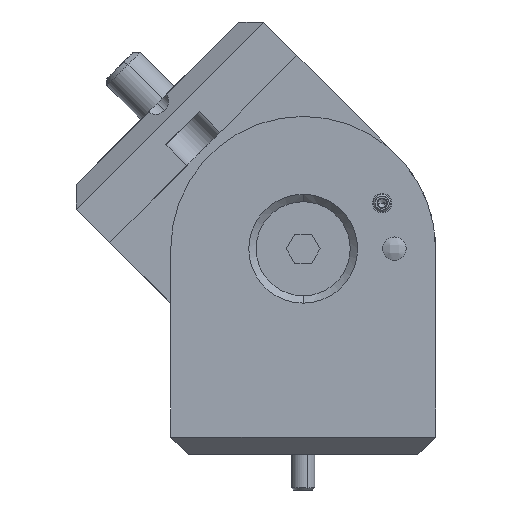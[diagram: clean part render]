
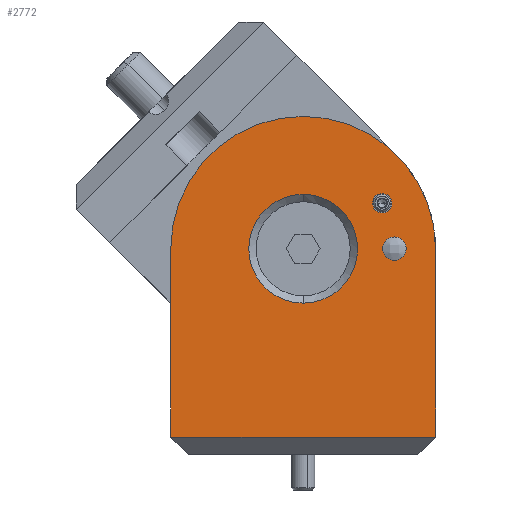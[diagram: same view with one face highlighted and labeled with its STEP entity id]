
A CAD part, left-side view. The second image highlights one B-rep face of the part: STEP entity #2772.
In plain terms, the highlighted planar face has unit normal (-1, 0, 0).
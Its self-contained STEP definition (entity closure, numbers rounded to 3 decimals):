
#46 = EDGE_CURVE ( 'NONE', #540, #769, #2742, .T. ) ;
#47 = VERTEX_POINT ( 'NONE', #4120 ) ;
#88 = DIRECTION ( 'NONE',  ( -1., 0., 0. ) ) ;
#90 = ORIENTED_EDGE ( 'NONE', *, *, #2481, .T. ) ;
#98 = VERTEX_POINT ( 'NONE', #458 ) ;
#119 = AXIS2_PLACEMENT_3D ( 'NONE', #4196, #2003, #4567 ) ;
#158 = DIRECTION ( 'NONE',  ( 1., 0., 0. ) ) ;
#161 = ORIENTED_EDGE ( 'NONE', *, *, #2146, .F. ) ;
#295 = CARTESIAN_POINT ( 'NONE',  ( -22.5, -13.423, 42.75 ) ) ;
#327 = CIRCLE ( 'NONE', #2561, 22.5 ) ;
#352 = AXIS2_PLACEMENT_3D ( 'NONE', #3846, #1632, #4213 ) ;
#405 = CARTESIAN_POINT ( 'NONE',  ( -22.5, -15.5, 35. ) ) ;
#458 = CARTESIAN_POINT ( 'NONE',  ( -22.5, 22.5, 3. ) ) ;
#504 = VECTOR ( 'NONE', #3307, 1000. ) ;
#540 = VERTEX_POINT ( 'NONE', #1546 ) ;
#655 = DIRECTION ( 'NONE',  ( 0., 0., 1. ) ) ;
#746 = CARTESIAN_POINT ( 'NONE',  ( -22.5, 22.5, 11. ) ) ;
#767 = DIRECTION ( 'NONE',  ( 0., 0., 1. ) ) ;
#769 = VERTEX_POINT ( 'NONE', #4026 ) ;
#835 = FACE_BOUND ( 'NONE', #2955, .T. ) ;
#855 = ORIENTED_EDGE ( 'NONE', *, *, #4232, .F. ) ;
#918 = AXIS2_PLACEMENT_3D ( 'NONE', #405, #2966, #767 ) ;
#1110 = ORIENTED_EDGE ( 'NONE', *, *, #1195, .F. ) ;
#1187 = DIRECTION ( 'NONE',  ( 0., 0., -1. ) ) ;
#1195 = EDGE_CURVE ( 'NONE', #47, #3484, #3722, .T. ) ;
#1221 = EDGE_CURVE ( 'NONE', #769, #540, #3593, .T. ) ;
#1291 = EDGE_CURVE ( 'NONE', #2305, #4248, #327, .T. ) ;
#1338 = DIRECTION ( 'NONE',  ( 0., 0., -1. ) ) ;
#1426 = ORIENTED_EDGE ( 'NONE', *, *, #1291, .T. ) ;
#1531 = EDGE_CURVE ( 'NONE', #2550, #2662, #3823, .T. ) ;
#1546 = CARTESIAN_POINT ( 'NONE',  ( -22.5, 0., 44.25 ) ) ;
#1632 = DIRECTION ( 'NONE',  ( 1., 0., 0. ) ) ;
#1636 = CARTESIAN_POINT ( 'NONE',  ( -22.5, -22.5, 35. ) ) ;
#1883 = LINE ( 'NONE', #3572, #2736 ) ;
#1984 = ORIENTED_EDGE ( 'NONE', *, *, #1531, .F. ) ;
#2003 = DIRECTION ( 'NONE',  ( -1., 0., 0. ) ) ;
#2025 = CARTESIAN_POINT ( 'NONE',  ( -22.5, -13.423, 41.1 ) ) ;
#2058 = DIRECTION ( 'NONE',  ( -1., 0., 0. ) ) ;
#2079 = ORIENTED_EDGE ( 'NONE', *, *, #1221, .T. ) ;
#2146 = EDGE_CURVE ( 'NONE', #2305, #4329, #3326, .T. ) ;
#2161 = AXIS2_PLACEMENT_3D ( 'NONE', #3904, #3549, #1338 ) ;
#2181 = AXIS2_PLACEMENT_3D ( 'NONE', #3430, #158, #2558 ) ;
#2261 = CARTESIAN_POINT ( 'NONE',  ( -22.5, -13.423, 42.75 ) ) ;
#2305 = VERTEX_POINT ( 'NONE', #1636 ) ;
#2442 = LINE ( 'NONE', #746, #504 ) ;
#2457 = EDGE_LOOP ( 'NONE', ( #2614, #90, #161, #1426 ) ) ;
#2481 = EDGE_CURVE ( 'NONE', #98, #4329, #1883, .T. ) ;
#2529 = CARTESIAN_POINT ( 'NONE',  ( -22.5, -13.423, 44.4 ) ) ;
#2550 = VERTEX_POINT ( 'NONE', #2529 ) ;
#2558 = DIRECTION ( 'NONE',  ( 0., 0., -1. ) ) ;
#2561 = AXIS2_PLACEMENT_3D ( 'NONE', #4260, #2058, #4625 ) ;
#2614 = ORIENTED_EDGE ( 'NONE', *, *, #3556, .T. ) ;
#2648 = DIRECTION ( 'NONE',  ( 0., 0., 1. ) ) ;
#2662 = VERTEX_POINT ( 'NONE', #2025 ) ;
#2736 = VECTOR ( 'NONE', #3218, 1000. ) ;
#2742 = CIRCLE ( 'NONE', #2181, 9.25 ) ;
#2772 = ADVANCED_FACE ( 'NONE', ( #4609, #835, #3651, #3774 ), #4638, .F. ) ;
#2864 = DIRECTION ( 'NONE',  ( -1., 0., 0. ) ) ;
#2955 = EDGE_LOOP ( 'NONE', ( #3334, #2079 ) ) ;
#2966 = DIRECTION ( 'NONE',  ( -1., 0., 0. ) ) ;
#3037 = CARTESIAN_POINT ( 'NONE',  ( -22.5, -22.5, 3. ) ) ;
#3209 = ORIENTED_EDGE ( 'NONE', *, *, #4197, .F. ) ;
#3218 = DIRECTION ( 'NONE',  ( 0., -1., 0. ) ) ;
#3284 = EDGE_LOOP ( 'NONE', ( #1110, #3209 ) ) ;
#3307 = DIRECTION ( 'NONE',  ( 0., 0., -1. ) ) ;
#3326 = LINE ( 'NONE', #3772, #4289 ) ;
#3334 = ORIENTED_EDGE ( 'NONE', *, *, #46, .T. ) ;
#3430 = CARTESIAN_POINT ( 'NONE',  ( -22.5, 0., 35. ) ) ;
#3484 = VERTEX_POINT ( 'NONE', #4324 ) ;
#3549 = DIRECTION ( 'NONE',  ( 1., 0., 0. ) ) ;
#3556 = EDGE_CURVE ( 'NONE', #4248, #98, #2442, .T. ) ;
#3572 = CARTESIAN_POINT ( 'NONE',  ( -22.5, -22.5, 3. ) ) ;
#3593 = CIRCLE ( 'NONE', #352, 9.25 ) ;
#3624 = AXIS2_PLACEMENT_3D ( 'NONE', #2261, #88, #2648 ) ;
#3651 = FACE_BOUND ( 'NONE', #3284, .T. ) ;
#3722 = CIRCLE ( 'NONE', #119, 2. ) ;
#3772 = CARTESIAN_POINT ( 'NONE',  ( -22.5, -22.5, 11. ) ) ;
#3774 = FACE_BOUND ( 'NONE', #4256, .T. ) ;
#3823 = CIRCLE ( 'NONE', #3943, 1.65 ) ;
#3846 = CARTESIAN_POINT ( 'NONE',  ( -22.5, 0., 35. ) ) ;
#3904 = CARTESIAN_POINT ( 'NONE',  ( -22.5, -22.5, 11. ) ) ;
#3943 = AXIS2_PLACEMENT_3D ( 'NONE', #295, #2864, #655 ) ;
#4026 = CARTESIAN_POINT ( 'NONE',  ( -22.5, 0., 25.75 ) ) ;
#4058 = CIRCLE ( 'NONE', #918, 2. ) ;
#4101 = CARTESIAN_POINT ( 'NONE',  ( -22.5, 22.5, 35. ) ) ;
#4106 = CIRCLE ( 'NONE', #3624, 1.65 ) ;
#4120 = CARTESIAN_POINT ( 'NONE',  ( -22.5, -15.5, 37. ) ) ;
#4196 = CARTESIAN_POINT ( 'NONE',  ( -22.5, -15.5, 35. ) ) ;
#4197 = EDGE_CURVE ( 'NONE', #3484, #47, #4058, .T. ) ;
#4213 = DIRECTION ( 'NONE',  ( 0., 0., -1. ) ) ;
#4232 = EDGE_CURVE ( 'NONE', #2662, #2550, #4106, .T. ) ;
#4248 = VERTEX_POINT ( 'NONE', #4101 ) ;
#4256 = EDGE_LOOP ( 'NONE', ( #1984, #855 ) ) ;
#4260 = CARTESIAN_POINT ( 'NONE',  ( -22.5, 0., 35. ) ) ;
#4289 = VECTOR ( 'NONE', #1187, 1000. ) ;
#4324 = CARTESIAN_POINT ( 'NONE',  ( -22.5, -15.5, 33. ) ) ;
#4329 = VERTEX_POINT ( 'NONE', #3037 ) ;
#4567 = DIRECTION ( 'NONE',  ( 0., 0., 1. ) ) ;
#4609 = FACE_OUTER_BOUND ( 'NONE', #2457, .T. ) ;
#4625 = DIRECTION ( 'NONE',  ( 0., 0., -1. ) ) ;
#4638 = PLANE ( 'NONE',  #2161 ) ;
